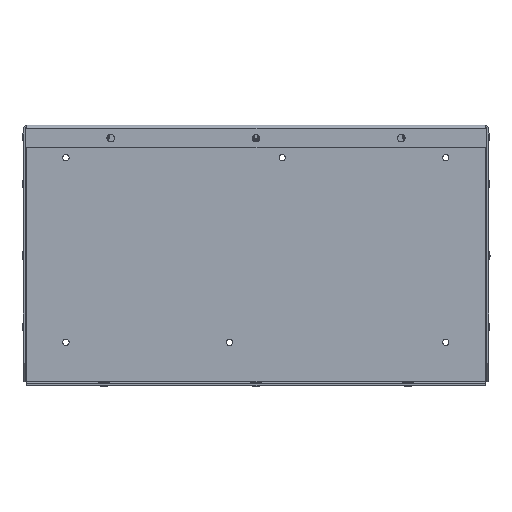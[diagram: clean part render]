
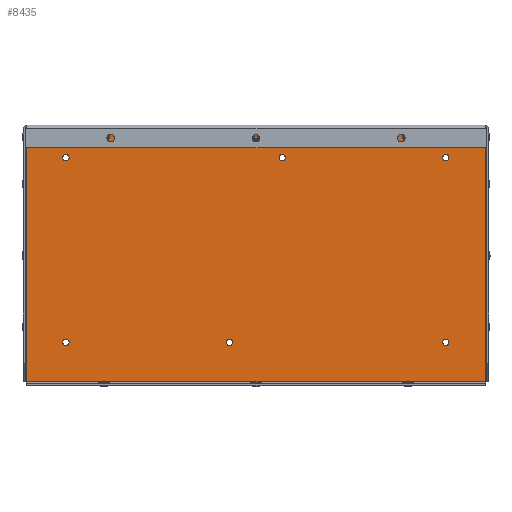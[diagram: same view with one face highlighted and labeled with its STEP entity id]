
A CAD part, top view. The second image highlights one B-rep face of the part: STEP entity #8435.
In plain terms, the highlighted planar face has unit normal (0, 0, 1).
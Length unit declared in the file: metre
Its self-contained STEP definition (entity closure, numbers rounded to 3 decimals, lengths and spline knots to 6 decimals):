
#717=LINE('',#15108,#1360);
#718=LINE('',#15110,#1361);
#722=LINE('',#15119,#1365);
#724=LINE('',#15134,#1367);
#725=LINE('',#15137,#1368);
#726=LINE('',#15138,#1369);
#1360=VECTOR('',#10669,1.);
#1361=VECTOR('',#10672,1.);
#1365=VECTOR('',#10678,1.);
#1367=VECTOR('',#10694,1.);
#1368=VECTOR('',#10695,1.);
#1369=VECTOR('',#10696,1.);
#4371=ORIENTED_EDGE('',*,*,#5764,.T.);
#4372=ORIENTED_EDGE('',*,*,#5765,.T.);
#4373=ORIENTED_EDGE('',*,*,#5766,.T.);
#4374=ORIENTED_EDGE('',*,*,#5767,.T.);
#4375=ORIENTED_EDGE('',*,*,#5768,.T.);
#4376=ORIENTED_EDGE('',*,*,#5769,.T.);
#4377=ORIENTED_EDGE('',*,*,#5770,.F.);
#4378=ORIENTED_EDGE('',*,*,#5771,.T.);
#4379=ORIENTED_EDGE('',*,*,#5758,.F.);
#4380=ORIENTED_EDGE('',*,*,#5757,.F.);
#4381=ORIENTED_EDGE('',*,*,#5762,.F.);
#4382=ORIENTED_EDGE('',*,*,#5772,.F.);
#5757=EDGE_CURVE('',#6910,#6911,#717,.F.);
#5758=EDGE_CURVE('',#6911,#6913,#718,.F.);
#5762=EDGE_CURVE('',#6915,#6910,#722,.T.);
#5764=EDGE_CURVE('',#6917,#6917,#7144,.T.);
#5765=EDGE_CURVE('',#6918,#6918,#7145,.T.);
#5766=EDGE_CURVE('',#6919,#6919,#7146,.T.);
#5767=EDGE_CURVE('',#6920,#6920,#7147,.T.);
#5768=EDGE_CURVE('',#6921,#6921,#7148,.T.);
#5769=EDGE_CURVE('',#6922,#6922,#7149,.T.);
#5770=EDGE_CURVE('',#6923,#6924,#724,.T.);
#5771=EDGE_CURVE('',#6923,#6913,#725,.T.);
#5772=EDGE_CURVE('',#6924,#6915,#726,.T.);
#6910=VERTEX_POINT('',#15096);
#6911=VERTEX_POINT('',#15101);
#6913=VERTEX_POINT('',#15111);
#6915=VERTEX_POINT('',#15117);
#6917=VERTEX_POINT('',#15123);
#6918=VERTEX_POINT('',#15125);
#6919=VERTEX_POINT('',#15127);
#6920=VERTEX_POINT('',#15129);
#6921=VERTEX_POINT('',#15131);
#6922=VERTEX_POINT('',#15133);
#6923=VERTEX_POINT('',#15135);
#6924=VERTEX_POINT('',#15136);
#7144=CIRCLE('',#9183,0.0018);
#7145=CIRCLE('',#9184,0.0018);
#7146=CIRCLE('',#9185,0.0018);
#7147=CIRCLE('',#9186,0.0018);
#7148=CIRCLE('',#9187,0.0018);
#7149=CIRCLE('',#9188,0.0018);
#7521=EDGE_LOOP('',(#4371));
#7522=EDGE_LOOP('',(#4372));
#7523=EDGE_LOOP('',(#4373));
#7524=EDGE_LOOP('',(#4374));
#7525=EDGE_LOOP('',(#4375));
#7526=EDGE_LOOP('',(#4376));
#7527=EDGE_LOOP('',(#4377,#4378,#4379,#4380,#4381,#4382));
#7945=FACE_BOUND('',#7521,.T.);
#7946=FACE_BOUND('',#7522,.T.);
#7947=FACE_BOUND('',#7523,.T.);
#7948=FACE_BOUND('',#7524,.T.);
#7949=FACE_BOUND('',#7525,.T.);
#7950=FACE_BOUND('',#7526,.T.);
#7951=FACE_BOUND('',#7527,.T.);
#8183=PLANE('',#9182);
#8435=ADVANCED_FACE('',(#7945,#7946,#7947,#7948,#7949,#7950,#7951),#8183,
 .F.);
#9182=AXIS2_PLACEMENT_3D('',#15121,#10680,#10681);
#9183=AXIS2_PLACEMENT_3D('',#15122,#10682,#10683);
#9184=AXIS2_PLACEMENT_3D('',#15124,#10684,#10685);
#9185=AXIS2_PLACEMENT_3D('',#15126,#10686,#10687);
#9186=AXIS2_PLACEMENT_3D('',#15128,#10688,#10689);
#9187=AXIS2_PLACEMENT_3D('',#15130,#10690,#10691);
#9188=AXIS2_PLACEMENT_3D('',#15132,#10692,#10693);
#10669=DIRECTION('',(-1.,0.,0.));
#10672=DIRECTION('',(0.,1.,0.));
#10678=DIRECTION('',(0.,1.,0.));
#10680=DIRECTION('',(0.,0.,-1.));
#10681=DIRECTION('',(-1.,0.,0.));
#10682=DIRECTION('',(0.,0.,-1.));
#10683=DIRECTION('',(-1.,0.,0.));
#10684=DIRECTION('',(0.,0.,-1.));
#10685=DIRECTION('',(-1.,0.,0.));
#10686=DIRECTION('',(0.,0.,-1.));
#10687=DIRECTION('',(-1.,0.,0.));
#10688=DIRECTION('',(0.,0.,-1.));
#10689=DIRECTION('',(-1.,0.,0.));
#10690=DIRECTION('',(0.,0.,-1.));
#10691=DIRECTION('',(-1.,0.,0.));
#10692=DIRECTION('',(0.,0.,-1.));
#10693=DIRECTION('',(-1.,0.,0.));
#10694=DIRECTION('',(-1.,0.,0.));
#10695=DIRECTION('',(0.,1.,0.));
#10696=DIRECTION('',(0.,1.,0.));
#15096=CARTESIAN_POINT('',(0.001753,0.145567,0.001016));
#15101=CARTESIAN_POINT('',(0.262407,0.145567,0.001016));
#15108=CARTESIAN_POINT('',(0.,0.145567,0.001016));
#15110=CARTESIAN_POINT('',(0.262407,0.,0.001016));
#15111=CARTESIAN_POINT('',(0.262407,0.145208,0.001016));
#15117=CARTESIAN_POINT('',(0.001753,0.145208,0.001016));
#15119=CARTESIAN_POINT('',(0.001753,0.,0.001016));
#15121=CARTESIAN_POINT('',(0.,0.,0.001016));
#15122=CARTESIAN_POINT('',(0.024007,0.024264,0.001016));
#15123=CARTESIAN_POINT('',(0.022207,0.024264,0.001016));
#15124=CARTESIAN_POINT('',(0.117007,0.024264,0.001016));
#15125=CARTESIAN_POINT('',(0.115207,0.024264,0.001016));
#15126=CARTESIAN_POINT('',(0.240007,0.024264,0.001016));
#15127=CARTESIAN_POINT('',(0.238207,0.024264,0.001016));
#15128=CARTESIAN_POINT('',(0.240007,0.129264,0.001016));
#15129=CARTESIAN_POINT('',(0.238207,0.129264,0.001016));
#15130=CARTESIAN_POINT('',(0.147007,0.129264,0.001016));
#15131=CARTESIAN_POINT('',(0.145207,0.129264,0.001016));
#15132=CARTESIAN_POINT('',(0.024007,0.129264,0.001016));
#15133=CARTESIAN_POINT('',(0.022207,0.129264,0.001016));
#15134=CARTESIAN_POINT('',(0.,0.001753,0.001016));
#15135=CARTESIAN_POINT('',(0.262407,0.001753,0.001016));
#15136=CARTESIAN_POINT('',(0.001753,0.001753,0.001016));
#15137=CARTESIAN_POINT('',(0.262407,0.07348,0.001016));
#15138=CARTESIAN_POINT('',(0.001753,0.,0.001016));
